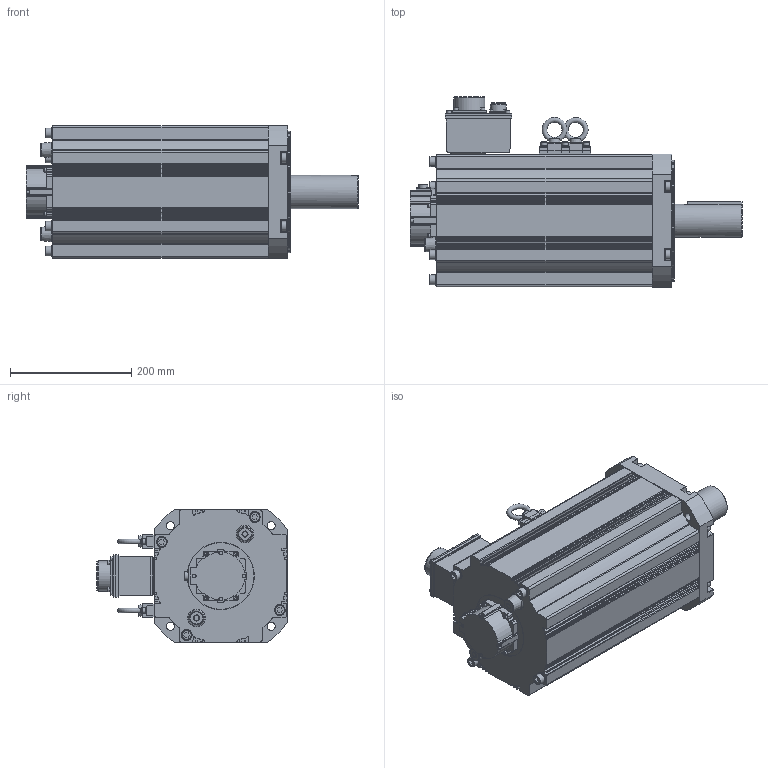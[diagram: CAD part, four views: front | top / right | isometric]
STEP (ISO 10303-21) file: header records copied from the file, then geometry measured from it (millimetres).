
FILE_DESCRIPTION( ( 'STEP AP0' ), '1' );
FILE_NAME( '//expscmdclustefs.cadenas.external/client_exchange/iodir/jobs/output/wkb64909388_no0/STEP/MDMEC54G1H_2_03.stp', ' ', ( ' ' ), ( ' ' ), 'PSStep 15.0.47', 'PARTsolutions', ' ' );
FILE_SCHEMA( ( 'CONFIG_CONTROL_DESIGN' ) );
Length unit declared in the file: millimetre
Products named in the file (1): HI_MDMEC54G1H
Bounding box: 548 x 315 x 220 mm (x, y, z)
Volume: 17197671.1 mm3; surface area: 608221.8 mm2
Topology: 1 solids, 1 shells, 1048 faces, 2688 edges, 1763 vertices
Faces by surface type: plane 606, cylinder 373, cone 50, torus 15, sphere 4
Full cylindrical faces by diameter (mm): 4.134 x1, 5 x4, 5.5 x8, 7 x12, 8 x14, 10 x6, 11 x4, 13.5 x4, 14.8 x1, 16 x12, 18 x12, 22.8 x1, 26.38 x1, 49.272 x1, 50.8 x1, 55 x1, 75 x1, 90 x1, 110 x1, 110.94 x1, 190 x1, 200 x1
Entity records: 31510 total; most frequent: CARTESIAN_POINT 6018, DIRECTION 5336, ORIENTED_EDGE 5044, EDGE_CURVE 2522, AXIS2_PLACEMENT_3D 1828, VERTEX_POINT 1752, LINE 1680, VECTOR 1680
